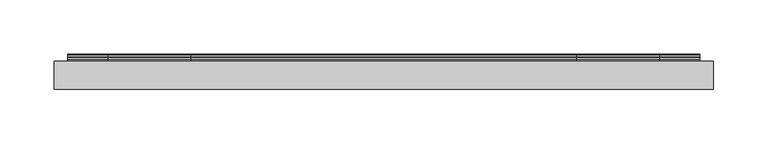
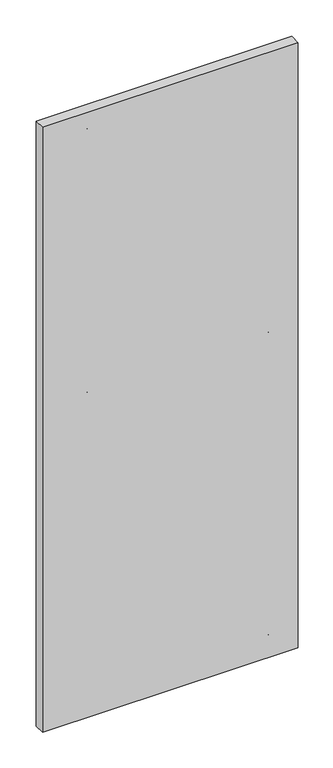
"""IFC4 building model written with IfcOpenShell, lengths in millimetres: furniture geometry, Geiger_GeigerOneCasegoods_WallTileTopTileorWallMountedWhiteM : 24Wx 1.25Dx 60H."""

from ifc_helpers import new_model, si_unit, point, frame, frame_2d, origin, origin_with_axes, place, context, project, spatial, polyline, circle_curve, trimmed, segment, composite_curve, outline, extrude, source, transform, mapped, element, save


def furniture_4de1cb5a(model_context):
    return source(origin(), model_context, "Body", "SweptSolid", [
        extrude(outline(composite_curve([segment(polyline([(2.8948, 38.2458), (2.8948, 31.3116), (3.7076, 30.5242), (5.6126, 30.5242), (6.4, 29.7114), (6.4, -1.9878), (5.1046, -1.9878), (3.5044, -0.3876), (3.5044, 24.1996), (2.6916, 25.0124), (0.812, 25.0124), (-0.0008, 25.7998), (-0.0008, 39.211)]), True, "CONTINUOUS"), segment(trimmed(circle_curve(frame_2d((0.8026421, 39.2016421)), 0.8034966), [point((-0.0008, 39.211))], [point((1.3708, 39.7698))], False, "CARTESIAN"), True, "CONTINUOUS"), segment(polyline([(1.3708, 39.7698), (2.8948, 38.2458)]), True, "CONTINUOUS")], self_intersect=False)), frame((12.5, 0.0, 0.0), z_axis=(1.0, 0.0, 0.0), x_axis=(0.0, 1.0, 0.0)), (0.0, 0.0, 1.0), 584.0),
        extrude(outline(composite_curve([segment(polyline([(2.8956, 46.3366), (3.7084, 45.5238), (5.588, 45.5238), (6.4008, 44.7364), (6.4008, 31.3252)]), True, "CONTINUOUS"), segment(trimmed(circle_curve(frame_2d((5.6011704, 31.3252)), 0.7996296), [point((6.4008, 31.3252))], [point((5.0292, 30.7664))], False, "CARTESIAN"), True, "CONTINUOUS"), segment(polyline([(5.0292, 30.7664), (3.5052, 32.2904), (3.5052, 39.2246), (2.6924, 40.012), (0.7874, 40.012), (0.0, 40.8248), (0.0, 72.524), (1.2954, 72.524), (2.8956, 70.9238), (2.8956, 46.3366)]), True, "CONTINUOUS")], self_intersect=False)), frame((483.0, 0.0, 0.0), z_axis=(1.0, 0.0, 0.0), x_axis=(0.0, 1.0, 0.0)), (0.0, 0.0, 1.0), 76.0),
        extrude(outline(composite_curve([segment(polyline([(3.5052, 32.2904), (3.5052, 39.2246), (2.6924, 40.012), (0.7874, 40.012), (0.0, 40.8248), (0.0, 72.524), (1.2954, 72.524), (2.8956, 70.9238), (2.8956, 46.3366), (3.7084, 45.5238), (5.588, 45.5238), (6.4008, 44.7364), (6.4008, 31.3252)]), True, "CONTINUOUS"), segment(trimmed(circle_curve(frame_2d((5.6011704, 31.3252)), 0.7996296), [point((6.4008, 31.3252))], [point((5.0292, 30.7664))], False, "CARTESIAN"), True, "CONTINUOUS"), segment(polyline([(5.0292, 30.7664), (3.5052, 32.2904)]), True, "CONTINUOUS")], self_intersect=False)), frame((50.0, 0.0, 0.0), z_axis=(1.0, 0.0, 0.0), x_axis=(0.0, 1.0, 0.0)), (0.0, 0.0, 1.0), 76.0),
        extrude(outline(composite_curve([segment(polyline([(2.8956, 808.3386), (3.7084, 807.5258), (5.588, 807.5258), (6.4008, 806.7384), (6.4008, 793.3272)]), True, "CONTINUOUS"), segment(trimmed(circle_curve(frame_2d((5.6011704, 793.3272)), 0.7996296), [point((6.4008, 793.3272))], [point((5.0292, 792.7684))], False, "CARTESIAN"), True, "CONTINUOUS"), segment(polyline([(5.0292, 792.7684), (3.5052, 794.2924), (3.5052, 801.2266), (2.6924, 802.014), (0.7874, 802.014), (0.0, 802.8268), (0.0, 834.526), (1.2954, 834.526), (2.8956, 832.9258), (2.8956, 808.3386)]), True, "CONTINUOUS")], self_intersect=False)), frame((483.0, 0.0, 0.0), z_axis=(1.0, 0.0, 0.0), x_axis=(0.0, 1.0, 0.0)), (0.0, 0.0, 1.0), 76.0),
        extrude(outline(composite_curve([segment(polyline([(3.5052, 794.2924), (3.5052, 801.2266), (2.6924, 802.014), (0.7874, 802.014), (0.0, 802.8268), (0.0, 834.526), (1.2954, 834.526), (2.8956, 832.9258), (2.8956, 808.3386), (3.7084, 807.5258), (5.588, 807.5258), (6.4008, 806.7384), (6.4008, 793.3272)]), True, "CONTINUOUS"), segment(trimmed(circle_curve(frame_2d((5.6011704, 793.3272)), 0.7996296), [point((6.4008, 793.3272))], [point((5.0292, 792.7684))], False, "CARTESIAN"), True, "CONTINUOUS"), segment(polyline([(5.0292, 792.7684), (3.5052, 794.2924)]), True, "CONTINUOUS")], self_intersect=False)), frame((50.0, 0.0, 0.0), z_axis=(1.0, 0.0, 0.0), x_axis=(0.0, 1.0, 0.0)), (0.0, 0.0, 1.0), 76.0),
        extrude(outline(composite_curve([segment(polyline([(2.8948, 800.2478), (2.8948, 793.3136), (3.7076, 792.5262), (5.6126, 792.5262), (6.4, 791.7134), (6.4, 760.0142), (5.1046, 760.0142), (3.5044, 761.6144), (3.5044, 786.2016), (2.6916, 787.0144), (0.812, 787.0144), (-0.0008, 787.8018), (-0.0008, 801.213)]), True, "CONTINUOUS"), segment(trimmed(circle_curve(frame_2d((0.8026421, 801.2036421)), 0.8034966), [point((-0.0008, 801.213))], [point((1.3708, 801.7718))], False, "CARTESIAN"), True, "CONTINUOUS"), segment(polyline([(1.3708, 801.7718), (2.8948, 800.2478)]), True, "CONTINUOUS")], self_intersect=False)), frame((12.5, 0.0, 0.0), z_axis=(1.0, 0.0, 0.0), x_axis=(0.0, 1.0, 0.0)), (0.0, 0.0, 1.0), 584.0),
        extrude(outline(composite_curve([segment(polyline([(2.8956, 1471.8326), (3.7084, 1471.0198), (5.588, 1471.0198), (6.4008, 1470.2324), (6.4008, 1456.8212)]), True, "CONTINUOUS"), segment(trimmed(circle_curve(frame_2d((5.6011704, 1456.8212)), 0.7996296), [point((6.4008, 1456.8212))], [point((5.0292, 1456.2624))], False, "CARTESIAN"), True, "CONTINUOUS"), segment(polyline([(5.0292, 1456.2624), (3.5052, 1457.7864), (3.5052, 1464.7206), (2.6924, 1465.508), (0.7874, 1465.508), (0.0, 1466.3208), (0.0, 1498.02), (1.2954, 1498.02), (2.8956, 1496.4198), (2.8956, 1471.8326)]), True, "CONTINUOUS")], self_intersect=False)), frame((483.0, 0.0, 0.0), z_axis=(1.0, 0.0, 0.0), x_axis=(0.0, 1.0, 0.0)), (0.0, 0.0, 1.0), 76.0),
        extrude(outline(composite_curve([segment(polyline([(3.5052, 1457.7864), (3.5052, 1464.7206), (2.6924, 1465.508), (0.7874, 1465.508), (0.0, 1466.3208), (0.0, 1498.02), (1.2954, 1498.02), (2.8956, 1496.4198), (2.8956, 1471.8326), (3.7084, 1471.0198), (5.588, 1471.0198), (6.4008, 1470.2324), (6.4008, 1456.8212)]), True, "CONTINUOUS"), segment(trimmed(circle_curve(frame_2d((5.6011704, 1456.8212)), 0.7996296), [point((6.4008, 1456.8212))], [point((5.0292, 1456.2624))], False, "CARTESIAN"), True, "CONTINUOUS"), segment(polyline([(5.0292, 1456.2624), (3.5052, 1457.7864)]), True, "CONTINUOUS")], self_intersect=False)), frame((50.0, 0.0, 0.0), z_axis=(1.0, 0.0, 0.0), x_axis=(0.0, 1.0, 0.0)), (0.0, 0.0, 1.0), 76.0),
        extrude(outline(composite_curve([segment(polyline([(2.8948, 1463.7418), (2.8948, 1456.8076), (3.7076, 1456.0202), (5.6126, 1456.0202), (6.4, 1455.2074), (6.4, 1423.5082), (5.1046, 1423.5082), (3.5044, 1425.1084), (3.5044, 1449.6956), (2.6916, 1450.5084), (0.812, 1450.5084), (-0.0008, 1451.2958), (-0.0008, 1464.707)]), True, "CONTINUOUS"), segment(trimmed(circle_curve(frame_2d((0.8026421, 1464.6976421)), 0.8034966), [point((-0.0008, 1464.707))], [point((1.3708, 1465.2658))], False, "CARTESIAN"), True, "CONTINUOUS"), segment(polyline([(1.3708, 1465.2658), (2.8948, 1463.7418)]), True, "CONTINUOUS")], self_intersect=False)), frame((12.5, 0.0, 0.0), z_axis=(1.0, 0.0, 0.0), x_axis=(0.0, 1.0, 0.0)), (0.0, 0.0, 1.0), 584.0),
        extrude(outline(polyline([(609.0, 0.0), (609.0, -26.0), (0.0, -26.0), (0.0, 0.0), (609.0, 0.0)])), origin_with_axes(), (0.0, 0.0, 1.0), 1523.0),
    ])


if __name__ == "__main__":
    model = new_model("IFC4")
    model_context = context("Model", 3, world=origin())
    ifc_project = project(units=[si_unit("LENGTHUNIT", "METRE", prefix="MILLI")], contexts=[model_context])
    site = spatial("IfcSite", under=ifc_project)
    building = spatial("IfcBuilding", under=site)
    placement = place(None, origin())
    furniture_shape = furniture_4de1cb5a(model_context)
    element("IfcFurniture", 1, ObjectType="Geiger_GeigerOneCasegoods_WallTileTopTileorWallMountedWhiteM : 24Wx 1.25Dx 60H", at=placement, inside=building, context=model_context, shape_type="MappedRepresentation", body=[
        mapped(furniture_shape, transform((0.0, 0.0, 0.0), x_axis=(1.0, 0.0, 0.0), y_axis=(0.0, 1.0, 0.0), z_axis=(0.0, 0.0, 1.0))),
    ])
    save(model, "model.ifc")
